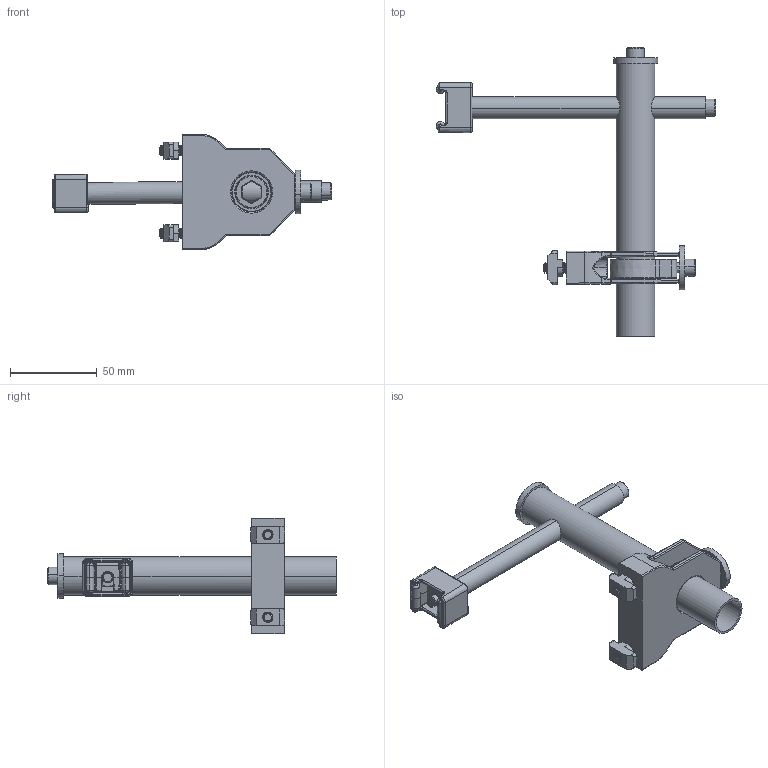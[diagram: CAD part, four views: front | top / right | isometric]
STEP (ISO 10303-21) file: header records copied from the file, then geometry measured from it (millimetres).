
FILE_DESCRIPTION((''),'2;1');
FILE_NAME('206686_ASM','2016-06-14T',('adam.dellomodarme'),(''),'PRO/ENGINEER BY PARAMETRIC TECHNOLOGY CORPORATION, 2012420','PRO/ENGINEER BY PARAMETRIC TECHNOLOGY CORPORATION, 2012420','');
FILE_SCHEMA(('CONFIG_CONTROL_DESIGN'));
Length unit declared in the file: inch
Products named in the file (16): 911-710_911-710; 990601M; 206385_0_875OD; 9206XXM_920616M; 807-920; 206397_206397; 206381_206381; 9206XXM_9206150M; 206383_X26128; 206685; 206380; 807-2859_91760A321; 206692; 206382_HEX; ASM0001_ASM; 206686_ASM
Assembly tree (20 placements, depth 3):
  206686_ASM
    ASM0001_ASM
      911-710_911-710  x2
      990601M
      206385_0_875OD
      9206XXM_920616M  x2
      807-920  x2
      206397_206397
      206381_206381
      9206XXM_9206150M
      206383_X26128
      206685  x2
      206380
      807-2859_91760A321  x2
      206692
      206382_HEX
Bounding box: 161.34 x 166.66 x 66.8 mm (x, y, z)
Volume: 79759.5 mm3; surface area: 69138.4 mm2
Topology: 19 solids, 19 shells, 1019 faces, 2573 edges, 1555 vertices
Faces by surface type: cylinder 410, plane 216, bspline 159, cone 141, torus 63, sphere 26, extrusion 4
Entity records: 45330 total; most frequent: CARTESIAN_POINT 26851, ORIENTED_EDGE 4034, DIRECTION 3420, EDGE_CURVE 2017, AXIS2_PLACEMENT_3D 1344, VERTEX_POINT 1217, EDGE_LOOP 864, FACE_OUTER_BOUND 827
